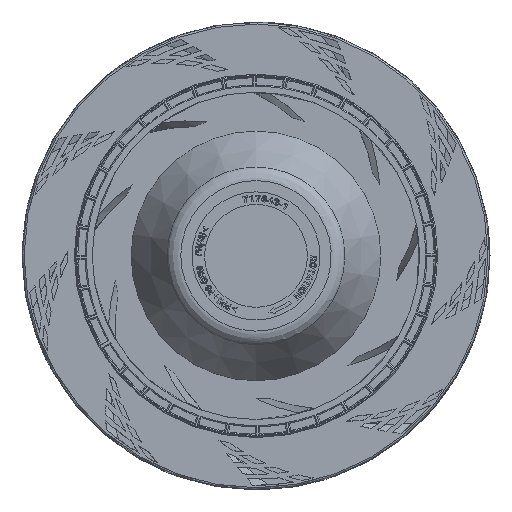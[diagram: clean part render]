
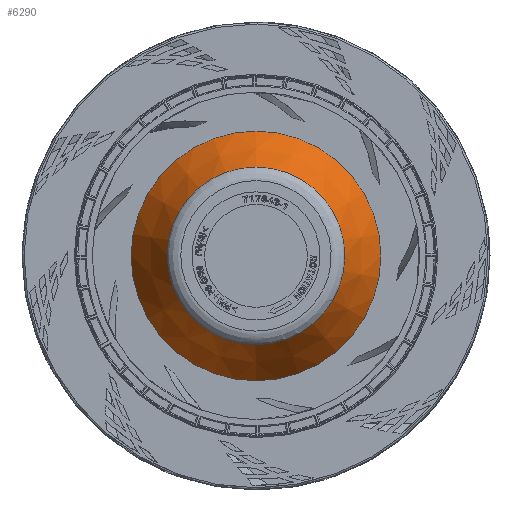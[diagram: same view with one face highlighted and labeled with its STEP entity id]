
A CAD part, top view. The second image highlights one B-rep face of the part: STEP entity #6290.
In plain terms, the highlighted conical face has half-angle 29.908 degrees and reference radius 0 mm.
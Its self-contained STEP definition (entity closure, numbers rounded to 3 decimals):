
#6215=CARTESIAN_POINT('',(0.,-28.442,11.193));
#6216=VERTEX_POINT('',#6215);
#6217=CARTESIAN_POINT('',(0.,28.442,11.193));
#6218=VERTEX_POINT('',#6217);
#6219=CARTESIAN_POINT('',(0.,0.,11.193));
#6220=DIRECTION('',(0.,-1.,0.));
#6221=DIRECTION('',(0.,0.,1.));
#6222=AXIS2_PLACEMENT_3D('',#6219,#6221,#6220);
#6223=CIRCLE('',#6222,28.442);
#6224=EDGE_CURVE('',#6216,#6218,#6223,.T.);
#6226=CARTESIAN_POINT('',(-0.399,-28.439,11.193));
#6227=VERTEX_POINT('',#6226);
#6228=CARTESIAN_POINT('',(0.,0.,11.193));
#6229=DIRECTION('',(-0.014,-1.,0.));
#6230=DIRECTION('',(0.,0.,-1.));
#6231=AXIS2_PLACEMENT_3D('',#6228,#6230,#6229);
#6232=CIRCLE('',#6231,28.442);
#6233=EDGE_CURVE('',#6227,#6218,#6232,.T.);
#6245=CARTESIAN_POINT('',(0.,0.,11.193));
#6246=DIRECTION('',(0.,-1.,0.));
#6247=DIRECTION('',(0.,0.,-1.));
#6248=AXIS2_PLACEMENT_3D('',#6245,#6247,#6246);
#6249=CIRCLE('',#6248,28.442);
#6250=EDGE_CURVE('',#6216,#6227,#6249,.T.);
#6255=CARTESIAN_POINT('',(0.,0.,60.638));
#6256=DIRECTION('',(0.,1.,0.));
#6257=DIRECTION('',(0.,0.,-1.));
#6258=AXIS2_PLACEMENT_3D('',#6255,#6257,#6256);
#6259=CONICAL_SURFACE('',#6258,0.,0.522);
#6260=ORIENTED_EDGE('',*,*,#6250,.T.);
#6261=ORIENTED_EDGE('',*,*,#6233,.T.);
#6262=CARTESIAN_POINT('',(0.,40.,-8.9));
#6263=VERTEX_POINT('',#6262);
#6264=CARTESIAN_POINT('',(0.,28.442,11.193));
#6265=DIRECTION('',(0.,0.499,-0.867));
#6266=VECTOR('',#6265,23.18);
#6267=LINE('',#6264,#6266);
#6268=EDGE_CURVE('',#6218,#6263,#6267,.T.);
#6269=ORIENTED_EDGE('E652',*,*,#6268,.T.);
#6270=CARTESIAN_POINT('',(0.,-40.,-8.9));
#6271=VERTEX_POINT('',#6270);
#6272=CARTESIAN_POINT('',(0.,0.,-8.9));
#6273=DIRECTION('',(0.,1.,0.));
#6274=DIRECTION('',(0.,0.,1.));
#6275=AXIS2_PLACEMENT_3D('',#6272,#6274,#6273);
#6276=CIRCLE('',#6275,40.);
#6277=EDGE_CURVE('',#6263,#6271,#6276,.T.);
#6278=ORIENTED_EDGE('E5781',*,*,#6277,.T.);
#6279=CARTESIAN_POINT('',(0.,0.,-8.9));
#6280=DIRECTION('',(0.,-1.,0.));
#6281=DIRECTION('',(0.,0.,1.));
#6282=AXIS2_PLACEMENT_3D('',#6279,#6281,#6280);
#6283=CIRCLE('',#6282,40.);
#6284=EDGE_CURVE('',#6271,#6263,#6283,.T.);
#6285=ORIENTED_EDGE('E698',*,*,#6284,.T.);
#6286=ORIENTED_EDGE('E698',*,*,#6268,.F.);
#6287=ORIENTED_EDGE('E698',*,*,#6224,.F.);
#6288=EDGE_LOOP('',(#6260,#6261,#6269,#6278,#6285,#6286,#6287));
#6289=FACE_OUTER_BOUND('',#6288,.T.);
#6290=ADVANCED_FACE('F52',(#6289),#6259,.T.);
